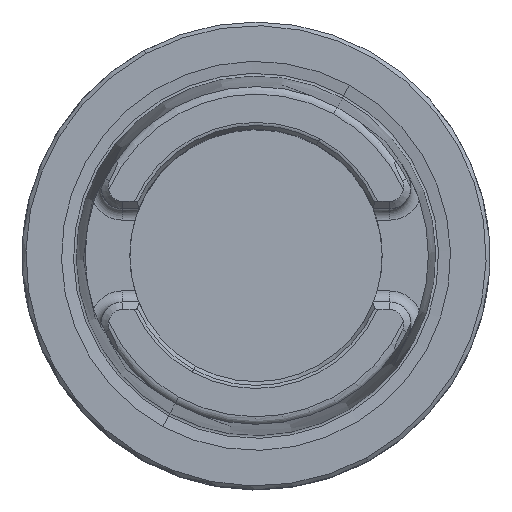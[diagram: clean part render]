
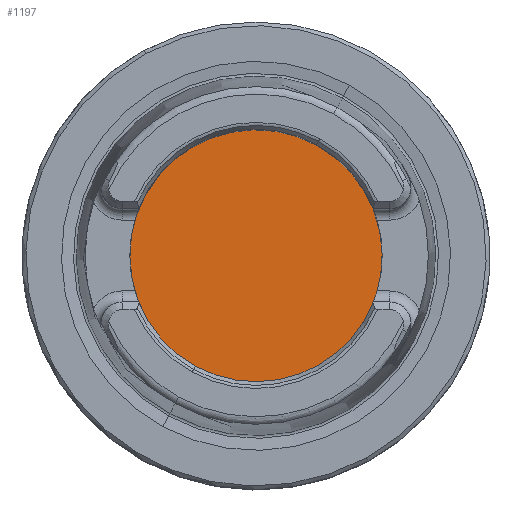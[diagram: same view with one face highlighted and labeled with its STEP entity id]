
A CAD part, top view. The second image highlights one B-rep face of the part: STEP entity #1197.
In plain terms, the highlighted planar face has unit normal (0, 0, 1).
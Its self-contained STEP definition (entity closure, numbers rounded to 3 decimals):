
#305=AXIS2_PLACEMENT_3D('Circle Axis2P3D',#303,#304,$) ;
#880=AXIS2_PLACEMENT_3D('Circle Axis2P3D',#878,#879,$) ;
#1191=AXIS2_PLACEMENT_3D('Plane Axis2P3D',#1188,#1189,#1190) ;
#300=CARTESIAN_POINT('Vertex',(8.15,14.919,-10.)) ;
#303=CARTESIAN_POINT('Axis2P3D Location',(0.,0.,-10.)) ;
#307=CARTESIAN_POINT('Vertex',(-8.15,-14.919,-10.)) ;
#878=CARTESIAN_POINT('Axis2P3D Location',(0.,0.,-10.)) ;
#1188=CARTESIAN_POINT('Axis2P3D Location',(0.,-15.75,-10.)) ;
#304=DIRECTION('Axis2P3D Direction',(0.,0.,-1.)) ;
#879=DIRECTION('Axis2P3D Direction',(0.,0.,-1.)) ;
#1189=DIRECTION('Axis2P3D Direction',(0.,0.,-1.)) ;
#1190=DIRECTION('Axis2P3D XDirection',(-1.,0.,0.)) ;
#1194=ORIENTED_EDGE('',*,*,#309,.F.) ;
#1195=ORIENTED_EDGE('',*,*,#882,.F.) ;
#1197=ADVANCED_FACE('NO_CUT',(#1196),#1192,.F.) ;
#306=CIRCLE('generated circle',#305,17.) ;
#881=CIRCLE('generated circle',#880,17.) ;
#309=EDGE_CURVE('',#301,#308,#306,.T.) ;
#882=EDGE_CURVE('',#308,#301,#881,.T.) ;
#1193=EDGE_LOOP('',(#1194,#1195)) ;
#1196=FACE_OUTER_BOUND('',#1193,.T.) ;
#1192=PLANE('',#1191) ;
#301=VERTEX_POINT('',#300) ;
#308=VERTEX_POINT('',#307) ;
